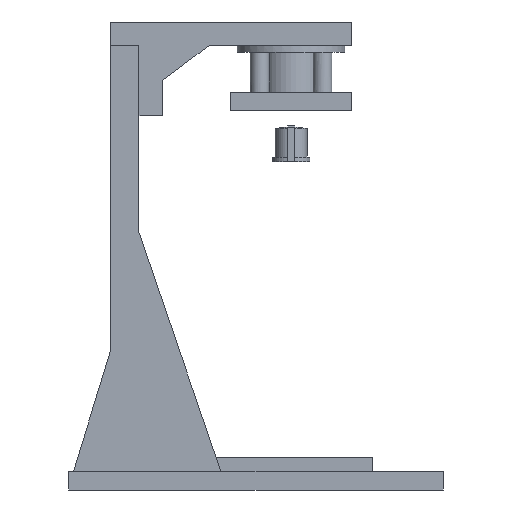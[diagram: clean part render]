
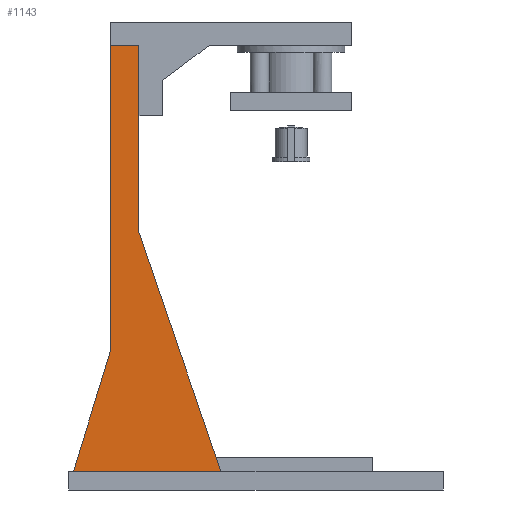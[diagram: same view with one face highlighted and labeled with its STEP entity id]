
A CAD part, left-side view. The second image highlights one B-rep face of the part: STEP entity #1143.
In plain terms, the highlighted planar face has unit normal (-1, 0, 0).
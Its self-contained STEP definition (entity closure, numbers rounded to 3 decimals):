
#200 = PLANE('',#201);
#201 = AXIS2_PLACEMENT_3D('',#202,#203,#204);
#202 = CARTESIAN_POINT('',(0.,0.,8.));
#203 = DIRECTION('',(0.,0.,1.));
#204 = DIRECTION('',(1.,0.,0.));
#454 = VERTEX_POINT('',#455);
#455 = CARTESIAN_POINT('',(45.,95.,8.));
#471 = PLANE('',#472);
#472 = AXIS2_PLACEMENT_3D('',#473,#474,#475);
#473 = CARTESIAN_POINT('',(45.,130.,110.));
#474 = DIRECTION('',(0.,0.946,-0.325));
#475 = DIRECTION('',(0.,-0.325,-0.946));
#483 = EDGE_CURVE('',#454,#484,#486,.T.);
#484 = VERTEX_POINT('',#485);
#485 = CARTESIAN_POINT('',(45.,158.,8.));
#486 = SURFACE_CURVE('',#487,(#491,#498),.PCURVE_S1.);
#487 = LINE('',#488,#489);
#488 = CARTESIAN_POINT('',(45.,95.,8.));
#489 = VECTOR('',#490,1.);
#490 = DIRECTION('',(0.,1.,0.));
#491 = PCURVE('',#200,#492);
#492 = DEFINITIONAL_REPRESENTATION('',(#493),#497);
#493 = LINE('',#494,#495);
#494 = CARTESIAN_POINT('',(45.,95.));
#495 = VECTOR('',#496,1.);
#496 = DIRECTION('',(0.,1.));
#497 = ( GEOMETRIC_REPRESENTATION_CONTEXT(2) 
PARAMETRIC_REPRESENTATION_CONTEXT() REPRESENTATION_CONTEXT('2D SPACE',''
  ) );
#498 = PCURVE('',#499,#504);
#499 = PLANE('',#500);
#500 = AXIS2_PLACEMENT_3D('',#501,#502,#503);
#501 = CARTESIAN_POINT('',(45.,146.601,30.601));
#502 = DIRECTION('',(1.,0.,0.));
#503 = DIRECTION('',(-0.,0.,1.));
#504 = DEFINITIONAL_REPRESENTATION('',(#505),#509);
#505 = LINE('',#506,#507);
#506 = CARTESIAN_POINT('',(-22.601,51.601));
#507 = VECTOR('',#508,1.);
#508 = DIRECTION('',(0.,-1.));
#509 = ( GEOMETRIC_REPRESENTATION_CONTEXT(2) 
PARAMETRIC_REPRESENTATION_CONTEXT() REPRESENTATION_CONTEXT('2D SPACE',''
  ) );
#527 = PLANE('',#528);
#528 = AXIS2_PLACEMENT_3D('',#529,#530,#531);
#529 = CARTESIAN_POINT('',(45.,158.,8.));
#530 = DIRECTION('',(0.,-0.956,-0.294));
#531 = DIRECTION('',(0.,-0.294,0.956));
#583 = PLANE('',#584);
#584 = AXIS2_PLACEMENT_3D('',#585,#586,#587);
#585 = CARTESIAN_POINT('',(45.,142.,8.));
#586 = DIRECTION('',(0.,1.,0.));
#587 = DIRECTION('',(0.,0.,1.));
#751 = PLANE('',#752);
#752 = AXIS2_PLACEMENT_3D('',#753,#754,#755);
#753 = CARTESIAN_POINT('',(45.,130.,8.));
#754 = DIRECTION('',(0.,1.,0.));
#755 = DIRECTION('',(0.,0.,1.));
#1077 = VERTEX_POINT('',#1078);
#1078 = CARTESIAN_POINT('',(45.,130.,110.));
#1123 = EDGE_CURVE('',#1077,#454,#1124,.T.);
#1124 = SURFACE_CURVE('',#1125,(#1129,#1136),.PCURVE_S1.);
#1125 = LINE('',#1126,#1127);
#1126 = CARTESIAN_POINT('',(45.,130.,110.));
#1127 = VECTOR('',#1128,1.);
#1128 = DIRECTION('',(0.,-0.325,-0.946));
#1129 = PCURVE('',#471,#1130);
#1130 = DEFINITIONAL_REPRESENTATION('',(#1131),#1135);
#1131 = LINE('',#1132,#1133);
#1132 = CARTESIAN_POINT('',(0.,0.));
#1133 = VECTOR('',#1134,1.);
#1134 = DIRECTION('',(1.,0.));
#1135 = ( GEOMETRIC_REPRESENTATION_CONTEXT(2) 
PARAMETRIC_REPRESENTATION_CONTEXT() REPRESENTATION_CONTEXT('2D SPACE',''
  ) );
#1136 = PCURVE('',#499,#1137);
#1137 = DEFINITIONAL_REPRESENTATION('',(#1138),#1142);
#1138 = LINE('',#1139,#1140);
#1139 = CARTESIAN_POINT('',(79.399,16.601));
#1140 = VECTOR('',#1141,1.);
#1141 = DIRECTION('',(-0.946,0.325));
#1142 = ( GEOMETRIC_REPRESENTATION_CONTEXT(2) 
PARAMETRIC_REPRESENTATION_CONTEXT() REPRESENTATION_CONTEXT('2D SPACE',''
  ) );
#1143 = ADVANCED_FACE('',(#1144),#499,.F.);
#1144 = FACE_BOUND('',#1145,.F.);
#1145 = EDGE_LOOP('',(#1146,#1169,#1192,#1220,#1241,#1242));
#1146 = ORIENTED_EDGE('',*,*,#1147,.T.);
#1147 = EDGE_CURVE('',#484,#1148,#1150,.T.);
#1148 = VERTEX_POINT('',#1149);
#1149 = CARTESIAN_POINT('',(45.,142.,60.));
#1150 = SURFACE_CURVE('',#1151,(#1155,#1162),.PCURVE_S1.);
#1151 = LINE('',#1152,#1153);
#1152 = CARTESIAN_POINT('',(45.,158.,8.));
#1153 = VECTOR('',#1154,1.);
#1154 = DIRECTION('',(0.,-0.294,0.956));
#1155 = PCURVE('',#499,#1156);
#1156 = DEFINITIONAL_REPRESENTATION('',(#1157),#1161);
#1157 = LINE('',#1158,#1159);
#1158 = CARTESIAN_POINT('',(-22.601,-11.399));
#1159 = VECTOR('',#1160,1.);
#1160 = DIRECTION('',(0.956,0.294));
#1161 = ( GEOMETRIC_REPRESENTATION_CONTEXT(2) 
PARAMETRIC_REPRESENTATION_CONTEXT() REPRESENTATION_CONTEXT('2D SPACE',''
  ) );
#1162 = PCURVE('',#527,#1163);
#1163 = DEFINITIONAL_REPRESENTATION('',(#1164),#1168);
#1164 = LINE('',#1165,#1166);
#1165 = CARTESIAN_POINT('',(0.,0.));
#1166 = VECTOR('',#1167,1.);
#1167 = DIRECTION('',(1.,0.));
#1168 = ( GEOMETRIC_REPRESENTATION_CONTEXT(2) 
PARAMETRIC_REPRESENTATION_CONTEXT() REPRESENTATION_CONTEXT('2D SPACE',''
  ) );
#1169 = ORIENTED_EDGE('',*,*,#1170,.T.);
#1170 = EDGE_CURVE('',#1148,#1171,#1173,.T.);
#1171 = VERTEX_POINT('',#1172);
#1172 = CARTESIAN_POINT('',(45.,142.,190.));
#1173 = SURFACE_CURVE('',#1174,(#1178,#1185),.PCURVE_S1.);
#1174 = LINE('',#1175,#1176);
#1175 = CARTESIAN_POINT('',(45.,142.,8.));
#1176 = VECTOR('',#1177,1.);
#1177 = DIRECTION('',(0.,0.,1.));
#1178 = PCURVE('',#499,#1179);
#1179 = DEFINITIONAL_REPRESENTATION('',(#1180),#1184);
#1180 = LINE('',#1181,#1182);
#1181 = CARTESIAN_POINT('',(-22.601,4.601));
#1182 = VECTOR('',#1183,1.);
#1183 = DIRECTION('',(1.,0.));
#1184 = ( GEOMETRIC_REPRESENTATION_CONTEXT(2) 
PARAMETRIC_REPRESENTATION_CONTEXT() REPRESENTATION_CONTEXT('2D SPACE',''
  ) );
#1185 = PCURVE('',#583,#1186);
#1186 = DEFINITIONAL_REPRESENTATION('',(#1187),#1191);
#1187 = LINE('',#1188,#1189);
#1188 = CARTESIAN_POINT('',(0.,0.));
#1189 = VECTOR('',#1190,1.);
#1190 = DIRECTION('',(1.,0.));
#1191 = ( GEOMETRIC_REPRESENTATION_CONTEXT(2) 
PARAMETRIC_REPRESENTATION_CONTEXT() REPRESENTATION_CONTEXT('2D SPACE',''
  ) );
#1192 = ORIENTED_EDGE('',*,*,#1193,.F.);
#1193 = EDGE_CURVE('',#1194,#1171,#1196,.T.);
#1194 = VERTEX_POINT('',#1195);
#1195 = CARTESIAN_POINT('',(45.,130.,190.));
#1196 = SURFACE_CURVE('',#1197,(#1201,#1208),.PCURVE_S1.);
#1197 = LINE('',#1198,#1199);
#1198 = CARTESIAN_POINT('',(45.,130.,190.));
#1199 = VECTOR('',#1200,1.);
#1200 = DIRECTION('',(0.,1.,0.));
#1201 = PCURVE('',#499,#1202);
#1202 = DEFINITIONAL_REPRESENTATION('',(#1203),#1207);
#1203 = LINE('',#1204,#1205);
#1204 = CARTESIAN_POINT('',(159.399,16.601));
#1205 = VECTOR('',#1206,1.);
#1206 = DIRECTION('',(0.,-1.));
#1207 = ( GEOMETRIC_REPRESENTATION_CONTEXT(2) 
PARAMETRIC_REPRESENTATION_CONTEXT() REPRESENTATION_CONTEXT('2D SPACE',''
  ) );
#1208 = PCURVE('',#1209,#1214);
#1209 = PLANE('',#1210);
#1210 = AXIS2_PLACEMENT_3D('',#1211,#1212,#1213);
#1211 = CARTESIAN_POINT('',(45.,130.,190.));
#1212 = DIRECTION('',(0.,0.,1.));
#1213 = DIRECTION('',(1.,0.,0.));
#1214 = DEFINITIONAL_REPRESENTATION('',(#1215),#1219);
#1215 = LINE('',#1216,#1217);
#1216 = CARTESIAN_POINT('',(0.,0.));
#1217 = VECTOR('',#1218,1.);
#1218 = DIRECTION('',(0.,1.));
#1219 = ( GEOMETRIC_REPRESENTATION_CONTEXT(2) 
PARAMETRIC_REPRESENTATION_CONTEXT() REPRESENTATION_CONTEXT('2D SPACE',''
  ) );
#1220 = ORIENTED_EDGE('',*,*,#1221,.F.);
#1221 = EDGE_CURVE('',#1077,#1194,#1222,.T.);
#1222 = SURFACE_CURVE('',#1223,(#1227,#1234),.PCURVE_S1.);
#1223 = LINE('',#1224,#1225);
#1224 = CARTESIAN_POINT('',(45.,130.,8.));
#1225 = VECTOR('',#1226,1.);
#1226 = DIRECTION('',(0.,0.,1.));
#1227 = PCURVE('',#499,#1228);
#1228 = DEFINITIONAL_REPRESENTATION('',(#1229),#1233);
#1229 = LINE('',#1230,#1231);
#1230 = CARTESIAN_POINT('',(-22.601,16.601));
#1231 = VECTOR('',#1232,1.);
#1232 = DIRECTION('',(1.,0.));
#1233 = ( GEOMETRIC_REPRESENTATION_CONTEXT(2) 
PARAMETRIC_REPRESENTATION_CONTEXT() REPRESENTATION_CONTEXT('2D SPACE',''
  ) );
#1234 = PCURVE('',#751,#1235);
#1235 = DEFINITIONAL_REPRESENTATION('',(#1236),#1240);
#1236 = LINE('',#1237,#1238);
#1237 = CARTESIAN_POINT('',(0.,0.));
#1238 = VECTOR('',#1239,1.);
#1239 = DIRECTION('',(1.,0.));
#1240 = ( GEOMETRIC_REPRESENTATION_CONTEXT(2) 
PARAMETRIC_REPRESENTATION_CONTEXT() REPRESENTATION_CONTEXT('2D SPACE',''
  ) );
#1241 = ORIENTED_EDGE('',*,*,#1123,.T.);
#1242 = ORIENTED_EDGE('',*,*,#483,.T.);
